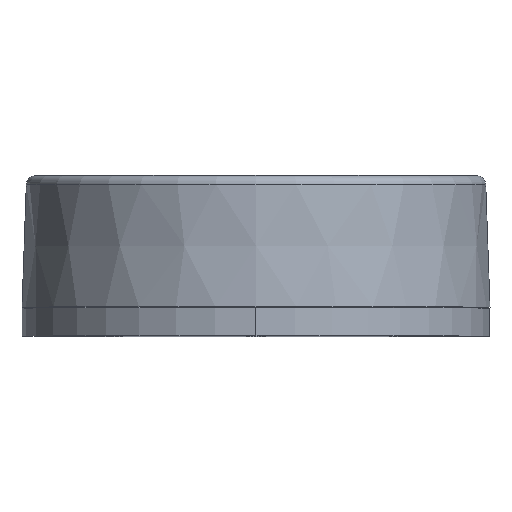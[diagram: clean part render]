
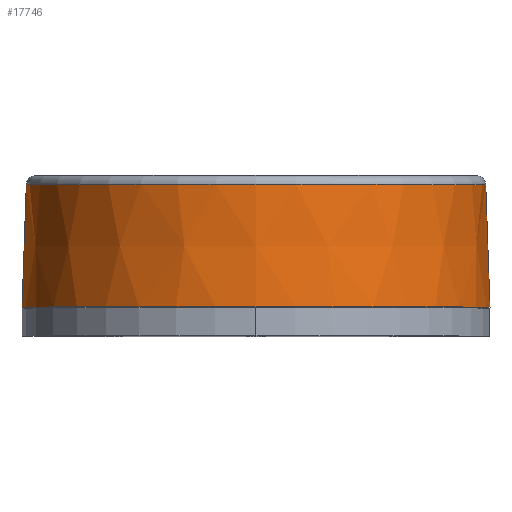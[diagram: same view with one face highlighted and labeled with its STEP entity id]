
A CAD part, top view. The second image highlights one B-rep face of the part: STEP entity #17746.
In plain terms, the highlighted conical face has half-angle 2 degrees and reference radius 25 mm.
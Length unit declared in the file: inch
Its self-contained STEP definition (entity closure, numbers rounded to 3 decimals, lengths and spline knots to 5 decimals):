
#4197 = EDGE_LOOP ( 'NONE', ( #23951, #23942, #23941, #23833 ) ) ;
#5080 = CARTESIAN_POINT ( 'NONE',  ( -0.08785, 0.08223, 0.01331 ) ) ;
#5081 = DIRECTION ( 'NONE',  ( 0., -1., 0. ) ) ;
#5082 = DIRECTION ( 'NONE',  ( 1., 0., 0. ) ) ;
#5985 = FACE_OUTER_BOUND ( 'NONE', #4197, .T. ) ;
#6007 = CONICAL_SURFACE ( 'NONE', #30078, 0.98425, 0.035 ) ;
#7720 = CARTESIAN_POINT ( 'NONE',  ( 0.89641, 0.08223, 0.01331 ) ) ;
#7869 = CARTESIAN_POINT ( 'NONE',  ( -1.0721, 0.08223, 0.01331 ) ) ;
#7948 = CARTESIAN_POINT ( 'NONE',  ( -1.05412, 0.59699, 0.01331 ) ) ;
#7949 = CARTESIAN_POINT ( 'NONE',  ( 0.87843, 0.59699, 0.01331 ) ) ;
#10073 = CIRCLE ( 'NONE', #35629, 0.96628 ) ;
#17746 = ADVANCED_FACE ( 'NONE', ( #5985 ), #6007, .T. ) ;
#19018 = EDGE_CURVE ( 'NONE', #25758, #25757, #10073, .T. ) ;
#19141 = CARTESIAN_POINT ( 'NONE',  ( 0.89641, 0.08223, 0.01331 ) ) ;
#19143 = DIRECTION ( 'NONE',  ( 0.035, -0.999, 0. ) ) ;
#19160 = DIRECTION ( 'NONE',  ( -0.035, -0.999, 0. ) ) ;
#19162 = CARTESIAN_POINT ( 'NONE',  ( -1.0721, 0.08223, 0.01331 ) ) ;
#23833 = ORIENTED_EDGE ( 'NONE', *, *, #30633, .F. ) ;
#23941 = ORIENTED_EDGE ( 'NONE', *, *, #30690, .F. ) ;
#23942 = ORIENTED_EDGE ( 'NONE', *, *, #30643, .T. ) ;
#23951 = ORIENTED_EDGE ( 'NONE', *, *, #19018, .T. ) ;
#25461 = VERTEX_POINT ( 'NONE', #7720 ) ;
#25610 = VERTEX_POINT ( 'NONE', #7869 ) ;
#25757 = VERTEX_POINT ( 'NONE', #7948 ) ;
#25758 = VERTEX_POINT ( 'NONE', #7949 ) ;
#27114 = CARTESIAN_POINT ( 'NONE',  ( -0.08785, 0.59699, 0.01331 ) ) ;
#27115 = DIRECTION ( 'NONE',  ( 0., -1., 0. ) ) ;
#27116 = DIRECTION ( 'NONE',  ( -1., 0., 0. ) ) ;
#30078 = AXIS2_PLACEMENT_3D ( 'NONE', #41528, #41526, #41524 ) ;
#30633 = EDGE_CURVE ( 'NONE', #25758, #25461, #42771, .T. ) ;
#30643 = EDGE_CURVE ( 'NONE', #25757, #25610, #42775, .T. ) ;
#30690 = EDGE_CURVE ( 'NONE', #25461, #25610, #42804, .T. ) ;
#35629 = AXIS2_PLACEMENT_3D ( 'NONE', #27114, #27115, #27116 ) ;
#36020 = AXIS2_PLACEMENT_3D ( 'NONE', #5080, #5081, #5082 ) ;
#41524 = DIRECTION ( 'NONE',  ( 1., 0., 0. ) ) ;
#41526 = DIRECTION ( 'NONE',  ( 0., -1., 0. ) ) ;
#41528 = CARTESIAN_POINT ( 'NONE',  ( -0.08785, 0.08223, 0.01331 ) ) ;
#42771 = LINE ( 'NONE', #19141, #42772 ) ;
#42772 = VECTOR ( 'NONE', #19143, 39.37008 ) ;
#42775 = LINE ( 'NONE', #19162, #42777 ) ;
#42777 = VECTOR ( 'NONE', #19160, 39.37008 ) ;
#42804 = CIRCLE ( 'NONE', #36020, 0.98425 ) ;
